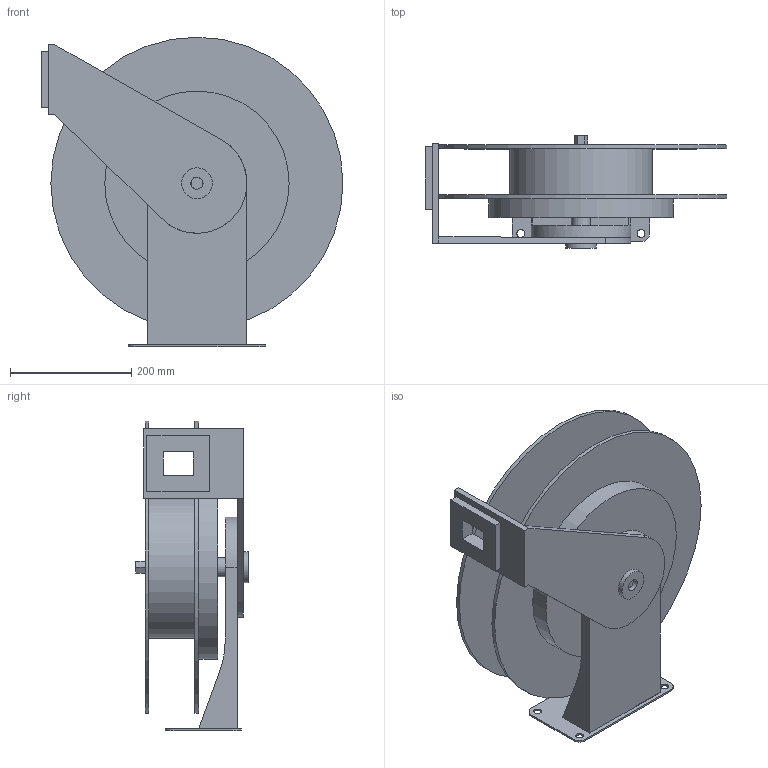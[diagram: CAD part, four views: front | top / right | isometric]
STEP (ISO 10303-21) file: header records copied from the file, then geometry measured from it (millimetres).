
FILE_DESCRIPTION( ( 'Unknown' ), '1' );
FILE_NAME( 'J:/NPD/RE 12893 3D WEB MODELS/7000 SERIES/TW7000 SW.stp', 'Unknown', ( 'Unknown' ), ( 'Unknown' ), 'PSStep 10.1', 'Unknown', ' ' );
FILE_SCHEMA( ( 'AUTOMOTIVE_DESIGN { 1 0 10303 214 1 1 1 1 }' ) );
Length unit declared in the file: millimetre
Products named in the file (1): 1
Bounding box: 498.88 x 185.93 x 511.56 mm (x, y, z)
Volume: 5640732.7 mm3; surface area: 1162506.2 mm2
Topology: 1 solids, 1 shells, 106 faces, 244 edges, 162 vertices
Faces by surface type: plane 71, cylinder 31, cone 4
Full cylindrical faces by diameter (mm): 7.137 x2, 9.144 x2, 11.862 x1, 13.106 x4, 14.287 x2, 18.923 x1, 31.75 x1, 44.45 x1, 50.8 x1, 53.975 x1, 107.95 x1, 231.953 x1, 234.95 x1, 304.648 x1, 482.6 x2
Entity records: 3725 total; most frequent: DIRECTION 503, CARTESIAN_POINT 477, ORIENTED_EDGE 426, EDGE_CURVE 213, AXIS2_PLACEMENT_3D 183, EDGE_LOOP 168, VERTEX_POINT 157, LINE 137
